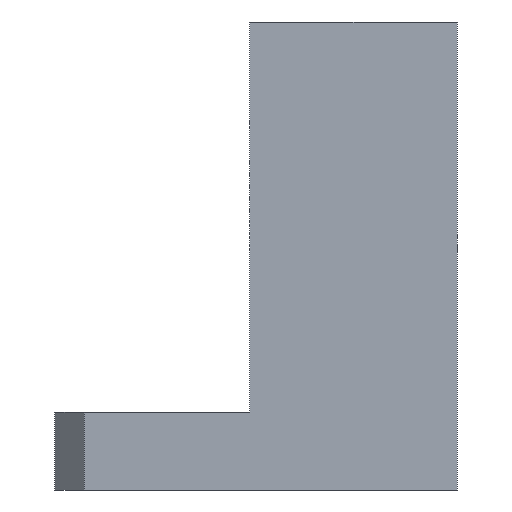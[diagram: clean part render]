
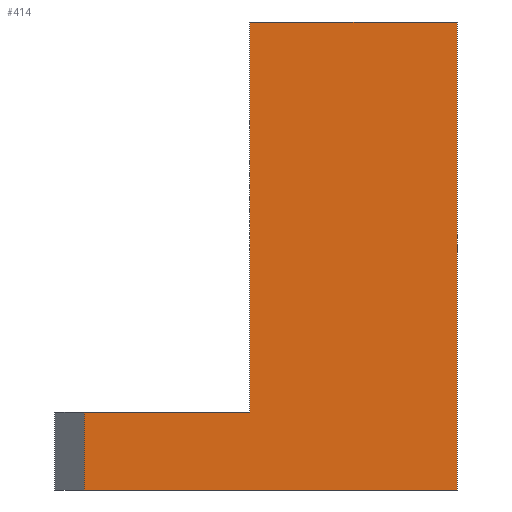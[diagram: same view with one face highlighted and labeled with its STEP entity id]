
A CAD part, left-side view. The second image highlights one B-rep face of the part: STEP entity #414.
In plain terms, the highlighted planar face has unit normal (-1, 0, 0).
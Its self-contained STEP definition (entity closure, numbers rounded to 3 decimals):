
#4 = CARTESIAN_POINT ( 'NONE',  ( -66., -21.247, 0. ) ) ;
#5 = ORIENTED_EDGE ( 'NONE', *, *, #438, .F. ) ;
#10 = DIRECTION ( 'NONE',  ( 1., 0., 0. ) ) ;
#15 = FACE_OUTER_BOUND ( 'NONE', #54, .T. ) ;
#20 = VERTEX_POINT ( 'NONE', #502 ) ;
#35 = DIRECTION ( 'NONE',  ( 0., 0., -1. ) ) ;
#40 = VERTEX_POINT ( 'NONE', #262 ) ;
#54 = EDGE_LOOP ( 'NONE', ( #245, #5, #491, #135, #511, #108 ) ) ;
#56 = AXIS2_PLACEMENT_3D ( 'NONE', #455, #10, #89 ) ;
#63 = LINE ( 'NONE', #494, #76 ) ;
#69 = EDGE_CURVE ( 'NONE', #122, #202, #63, .T. ) ;
#70 = CARTESIAN_POINT ( 'NONE',  ( -66., -21.247, 48. ) ) ;
#76 = VECTOR ( 'NONE', #347, 1000. ) ;
#85 = LINE ( 'NONE', #289, #291 ) ;
#89 = DIRECTION ( 'NONE',  ( 0., 0., -1. ) ) ;
#92 = VECTOR ( 'NONE', #226, 1000. ) ;
#98 = CARTESIAN_POINT ( 'NONE',  ( -66., -21.247, 48. ) ) ;
#106 = EDGE_CURVE ( 'NONE', #20, #202, #469, .T. ) ;
#108 = ORIENTED_EDGE ( 'NONE', *, *, #325, .T. ) ;
#114 = VECTOR ( 'NONE', #260, 1000. ) ;
#122 = VERTEX_POINT ( 'NONE', #191 ) ;
#135 = ORIENTED_EDGE ( 'NONE', *, *, #106, .T. ) ;
#136 = EDGE_CURVE ( 'NONE', #20, #249, #303, .T. ) ;
#145 = CARTESIAN_POINT ( 'NONE',  ( -66., 0., 48. ) ) ;
#191 = CARTESIAN_POINT ( 'NONE',  ( -66., 17., 8. ) ) ;
#202 = VERTEX_POINT ( 'NONE', #238 ) ;
#226 = DIRECTION ( 'NONE',  ( 0., 0., -1. ) ) ;
#238 = CARTESIAN_POINT ( 'NONE',  ( -66., 0., 8. ) ) ;
#239 = VECTOR ( 'NONE', #35, 1000. ) ;
#245 = ORIENTED_EDGE ( 'NONE', *, *, #259, .T. ) ;
#249 = VERTEX_POINT ( 'NONE', #70 ) ;
#259 = EDGE_CURVE ( 'NONE', #40, #369, #85, .T. ) ;
#260 = DIRECTION ( 'NONE',  ( 0., -1., 0. ) ) ;
#261 = CARTESIAN_POINT ( 'NONE',  ( -66., -21.247, 8. ) ) ;
#262 = CARTESIAN_POINT ( 'NONE',  ( -66., 17., 0. ) ) ;
#280 = DIRECTION ( 'NONE',  ( 0., -1., 0. ) ) ;
#289 = CARTESIAN_POINT ( 'NONE',  ( -66., -21.247, 0. ) ) ;
#291 = VECTOR ( 'NONE', #280, 1000. ) ;
#303 = LINE ( 'NONE', #98, #114 ) ;
#320 = CARTESIAN_POINT ( 'NONE',  ( -66., 17., 8. ) ) ;
#325 = EDGE_CURVE ( 'NONE', #122, #40, #513, .T. ) ;
#336 = DIRECTION ( 'NONE',  ( 0., 0., -1. ) ) ;
#347 = DIRECTION ( 'NONE',  ( 0., -1., 0. ) ) ;
#357 = VECTOR ( 'NONE', #336, 1000. ) ;
#369 = VERTEX_POINT ( 'NONE', #4 ) ;
#380 = LINE ( 'NONE', #261, #357 ) ;
#414 = ADVANCED_FACE ( 'NONE', ( #15 ), #487, .F. ) ;
#438 = EDGE_CURVE ( 'NONE', #249, #369, #380, .T. ) ;
#455 = CARTESIAN_POINT ( 'NONE',  ( -66., -21.247, 8. ) ) ;
#469 = LINE ( 'NONE', #145, #92 ) ;
#487 = PLANE ( 'NONE',  #56 ) ;
#491 = ORIENTED_EDGE ( 'NONE', *, *, #136, .F. ) ;
#494 = CARTESIAN_POINT ( 'NONE',  ( -66., -21.247, 8. ) ) ;
#502 = CARTESIAN_POINT ( 'NONE',  ( -66., 0., 48. ) ) ;
#511 = ORIENTED_EDGE ( 'NONE', *, *, #69, .F. ) ;
#513 = LINE ( 'NONE', #320, #239 ) ;
